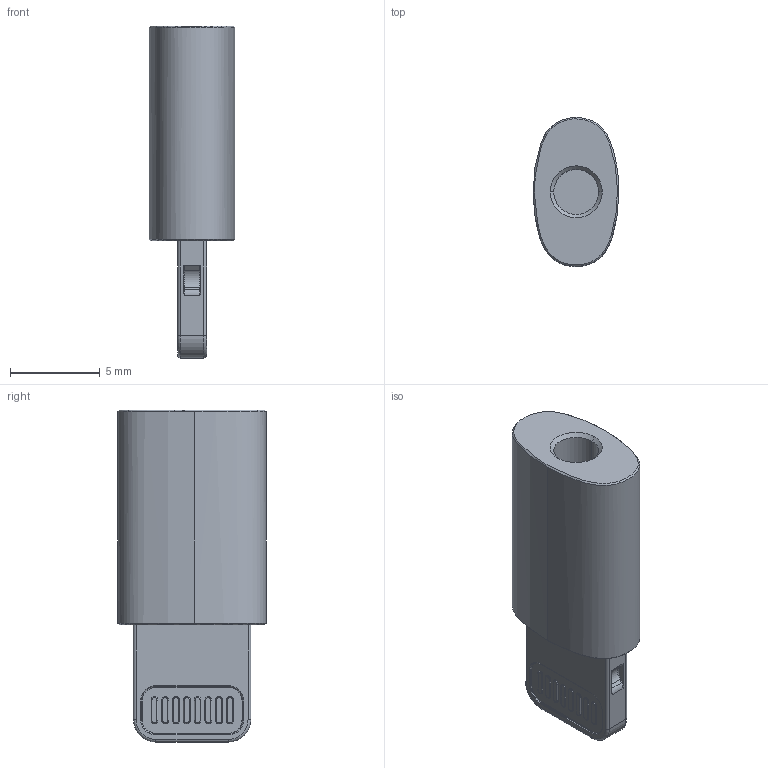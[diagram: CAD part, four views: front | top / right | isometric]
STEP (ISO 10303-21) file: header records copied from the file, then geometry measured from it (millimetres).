
FILE_DESCRIPTION (( 'STEP AP214' ), '1' );
FILE_NAME ('STEP_lightning_connector.STEP', '2014-06-05T11:49:33', ( '' ), ( '' ), 'SwSTEP 2.0', 'SolidWorks 2013', '' );
FILE_SCHEMA (( 'AUTOMOTIVE_DESIGN' ));
Length unit declared in the file: millimetre
Products named in the file (1): STEP_lightning_connector
Bounding box: 4.78 x 8.28 x 18.47 mm (x, y, z)
Volume: 425.3 mm3; surface area: 472.6 mm2
Topology: 1 solids, 1 shells, 257 faces, 640 edges, 408 vertices
Faces by surface type: cylinder 110, torus 92, plane 43, bspline 10, cone 2
Entity records: 14162 total; most frequent: CARTESIAN_POINT 4929, DIRECTION 1476, ORIENTED_EDGE 1280, EDGE_CURVE 640, AXIS2_PLACEMENT_3D 622, VERTEX_POINT 408, CIRCLE 374, EDGE_LOOP 280
